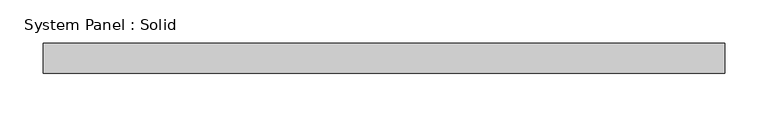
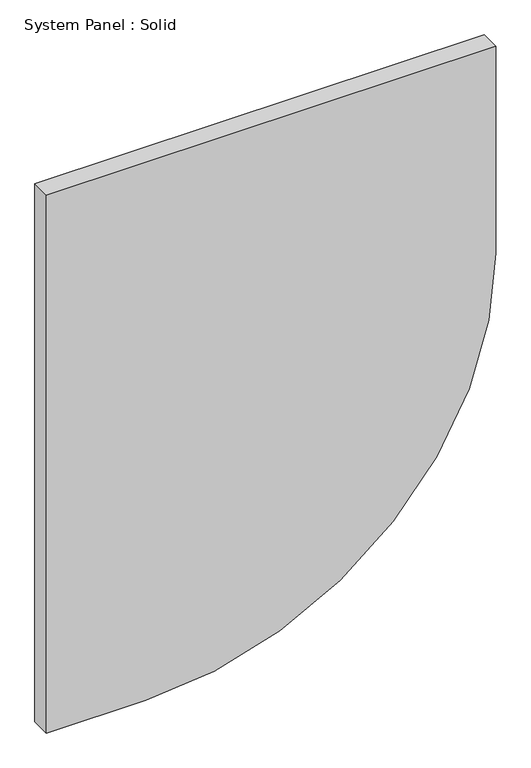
"""IFC4 building model written with IfcOpenShell, lengths in millimetres: plate geometry, System Panel : Solid."""

from ifc_helpers import new_model, si_unit, point, frame, frame_2d, origin, place, context, project, spatial, polyline, circle_curve, trimmed, segment, composite_curve, outline, extrude, source, transform, mapped, element, save


def system_panel_solid_2d10ba32(model_context):
    return source(origin(), model_context, "Body", "SweptSolid", [
        extrude(outline(composite_curve([segment(polyline([(0.0, -394.9999998), (0.0, -220.0000002)]), True, "CONTINUOUS"), segment(trimmed(circle_curve(frame_2d((615.0, -220.0000002)), 615.0), [point((0.0, -220.0000002))], [point((615.0, 394.9999998))], False, "CARTESIAN"), True, "CONTINUOUS"), segment(polyline([(615.0, 394.9999998), (1000.0, 394.9999998), (1000.0, -394.9999998), (0.0, -394.9999998)]), True, "CONTINUOUS")], self_intersect=False)), frame((0.0, -2.5, 0.0), z_axis=(0.0, 1.0, 0.0), x_axis=(0.0, 0.0, 1.0)), (0.0, 0.0, 1.0), 35.0),
    ])


if __name__ == "__main__":
    model = new_model("IFC4")
    model_context = context("Model", 3, world=origin())
    ifc_project = project(units=[si_unit("LENGTHUNIT", "METRE", prefix="MILLI")], contexts=[model_context])
    site = spatial("IfcSite", under=ifc_project)
    building = spatial("IfcBuilding", under=site)
    placement = place(None, origin())
    system_panel_solid_shape = system_panel_solid_2d10ba32(model_context)
    element("IfcPlate", 1, ObjectType="System Panel : Solid", at=placement, inside=building, context=model_context, shape_type="MappedRepresentation", body=[
        mapped(system_panel_solid_shape, transform((0.0, 0.0, 0.0), x_axis=(1.0, 0.0, 0.0), y_axis=(0.0, 1.0, 0.0), z_axis=(0.0, 0.0, 1.0))),
    ])
    save(model, "model.ifc")
